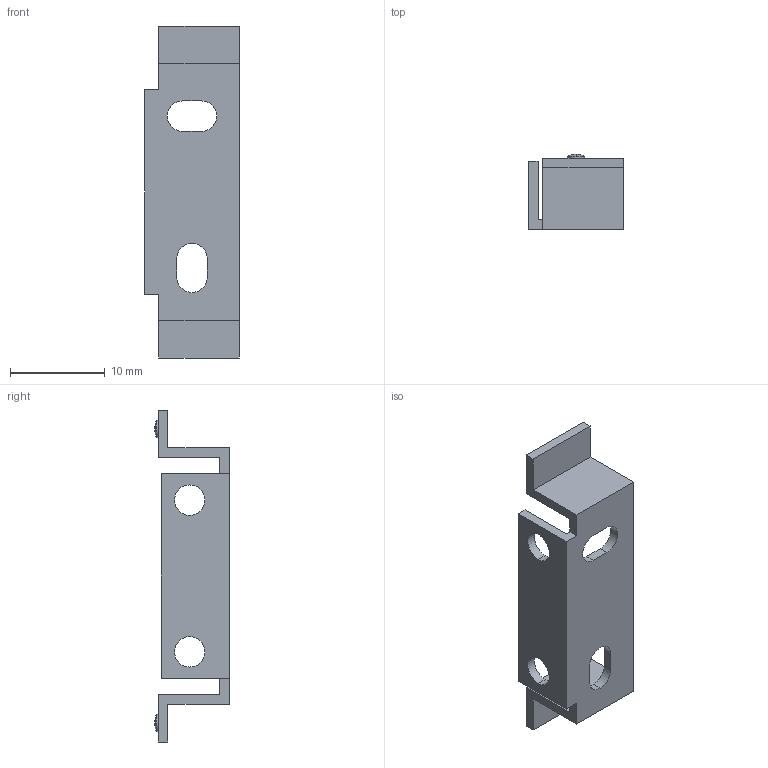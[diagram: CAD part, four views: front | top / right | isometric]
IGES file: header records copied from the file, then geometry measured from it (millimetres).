
Start section: SolidWorks IGES FILE using analytic representation for surfaces
Global section: file name: \\intra-srv04\開発データ\CAD_Data\CAD委員会\3D電子ｶﾀﾛｸﾞ\製品カタログ（新）\0_IGES\MS-DIN-2.IGS,41HSolidWorks 2004; native system: by SolidWorks Corporation; preprocessor: Version 5.3; author: mf1158; date: 050905.111236; units: millimetre
Bounding box: 10 x 7.9 x 35 mm (x, y, z)
Volume: 530.9 mm3; surface area: 1237.8 mm2
Topology: 1 solids, 1 shells, 41 faces, 113 edges, 72 vertices
Faces by surface type: plane 24, revolution 17
